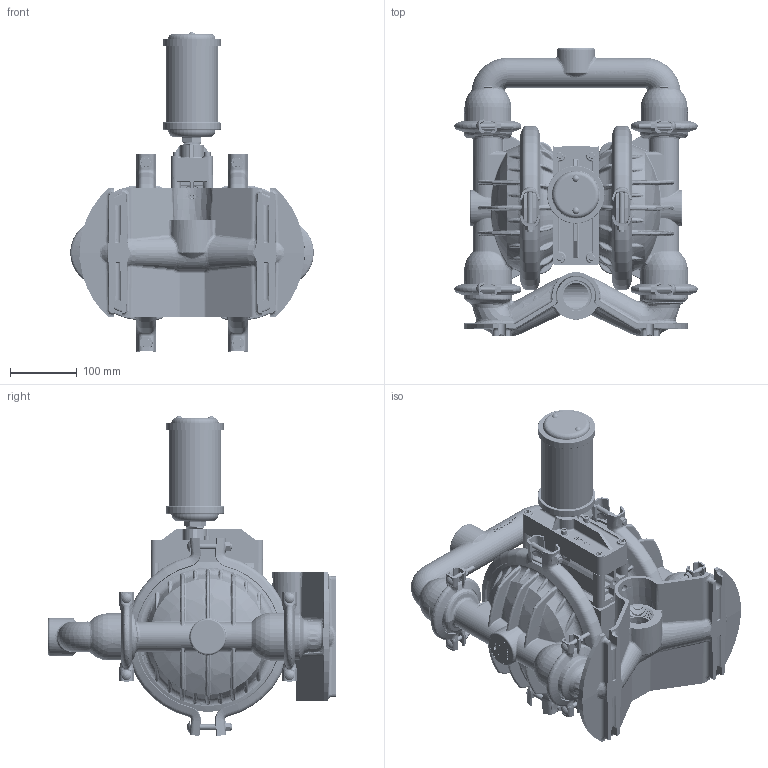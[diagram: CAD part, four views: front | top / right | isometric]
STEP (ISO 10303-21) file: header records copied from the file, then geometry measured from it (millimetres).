
FILE_DESCRIPTION((''),'2;1');
FILE_NAME('P4_AL_CLAMP_TOP_SW0001','2009-11-20T',('Roy.Andrade'),(''),'PRO/ENGINEER BY PARAMETRIC TECHNOLOGY CORPORATION, 2008400','PRO/ENGINEER BY PARAMETRIC TECHNOLOGY CORPORATION, 2008400','');
FILE_SCHEMA(('CONFIG_CONTROL_DESIGN'));
Length unit declared in the file: inch
Products named in the file (1): P4_AL_CLAMP_TOP_SW0001
Bounding box: 364.6 x 431.93 x 479.26 mm (x, y, z)
Volume: 5898593.4 mm3; surface area: 1426492.2 mm2
Topology: 12 solids, 12 shells, 10306 faces, 26852 edges, 16868 vertices
Faces by surface type: plane 5625, bspline 1877, cylinder 1305, cone 664, torus 498, sphere 205, extrusion 132
Entity records: 657083 total; most frequent: CARTESIAN_POINT 423927, ORIENTED_EDGE 53644, DIRECTION 40744, EDGE_CURVE 26822, VERTEX_POINT 16869, VECTOR 13622, AXIS2_PLACEMENT_3D 13561, LINE 13490
